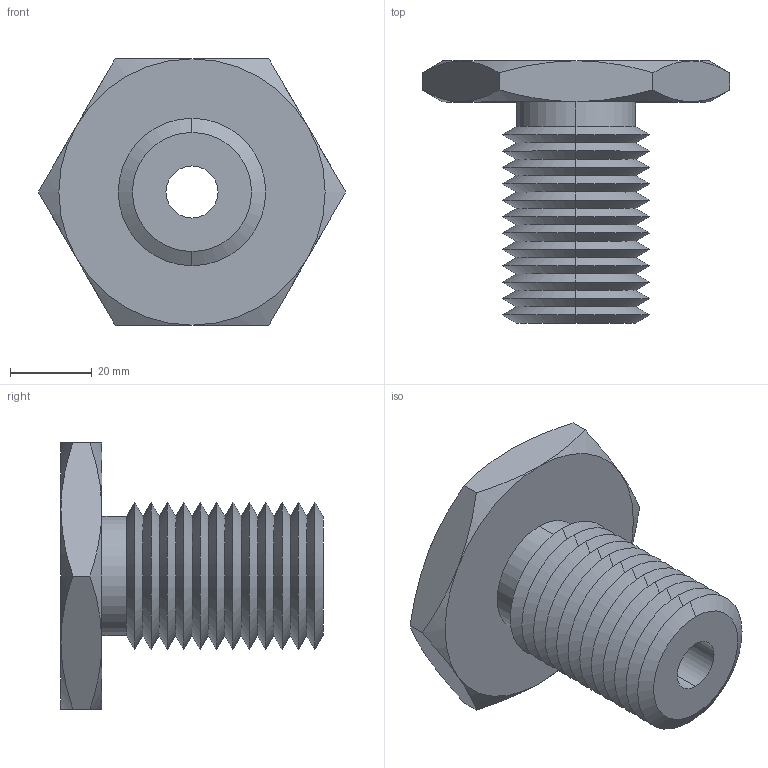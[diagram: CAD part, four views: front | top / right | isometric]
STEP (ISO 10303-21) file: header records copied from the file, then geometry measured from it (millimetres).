
FILE_DESCRIPTION (( 'STEP AP203' ), '1' );
FILE_NAME ('63302.W0036_0,50 UNC-13.step', '2013-12-08T11:11:15', ( 'User' ), ( '' ), 'SwSTEP 2.0', 'SolidWorks 2009', '' );
FILE_SCHEMA (( 'CONFIG_CONTROL_DESIGN' ));
Length unit declared in the file: millimetre
Products named in the file (1): 63302.W0036_0,50 UNC-13
Bounding box: 75.06 x 64 x 65 mm (x, y, z)
Volume: 71843 mm3; surface area: 21846.6 mm2
Topology: 1 solids, 1 shells, 75 faces, 154 edges, 82 vertices
Faces by surface type: cone 62, plane 9, cylinder 4
Entity records: 2139 total; most frequent: CARTESIAN_POINT 496, DIRECTION 352, ORIENTED_EDGE 308, EDGE_CURVE 154, AXIS2_PLACEMENT_3D 146, VERTEX_POINT 82, EDGE_LOOP 78, ADVANCED_FACE 75
